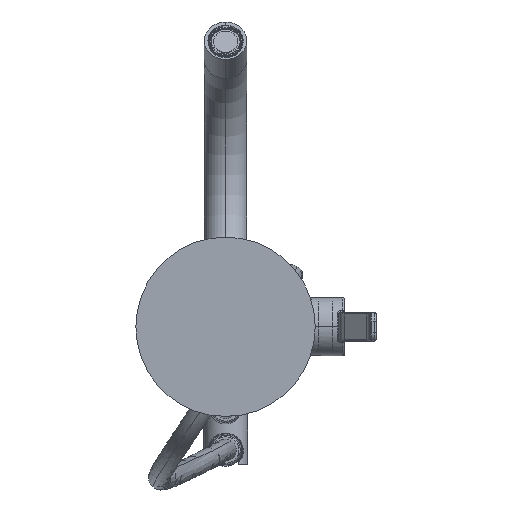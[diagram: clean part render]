
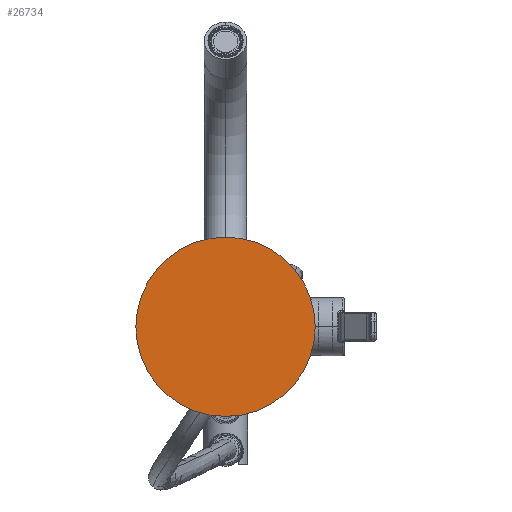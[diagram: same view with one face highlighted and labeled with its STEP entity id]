
A CAD part, front view. The second image highlights one B-rep face of the part: STEP entity #26734.
In plain terms, the highlighted planar face has unit normal (0, -1, 0).
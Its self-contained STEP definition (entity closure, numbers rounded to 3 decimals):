
#14343=CARTESIAN_POINT('',(0.,0.,0.));
#14344=DIRECTION('',(0.,-1.,0.));
#14345=DIRECTION('',(-1.,0.,0.));
#14346=AXIS2_PLACEMENT_3D('',#14343,#14344,#14345);
#14348=CARTESIAN_POINT('',(0.,0.,0.));
#14349=DIRECTION('',(0.,1.,0.));
#14350=DIRECTION('',(-1.,0.,0.));
#14351=AXIS2_PLACEMENT_3D('',#14348,#14349,#14350);
#20806=CARTESIAN_POINT('',(-63.,0.,0.));
#20807=CARTESIAN_POINT('',(63.,0.,0.));
#20808=VERTEX_POINT('',#20806);
#20809=VERTEX_POINT('',#20807);
#26725=CARTESIAN_POINT('',(0.,0.,0.));
#26726=DIRECTION('',(0.,1.,0.));
#26727=DIRECTION('',(1.,0.,0.));
#26728=AXIS2_PLACEMENT_3D('',#26725,#26726,#26727);
#26729=PLANE('',#26728);
#26730=ORIENTED_EDGE('',*,*,#26671,.F.);
#26731=ORIENTED_EDGE('',*,*,#26693,.T.);
#26732=EDGE_LOOP('',(#26730,#26731));
#26733=FACE_OUTER_BOUND('',#26732,.F.);
#14347=CIRCLE('',#14346,63.);
#14352=CIRCLE('',#14351,63.);
#26671=EDGE_CURVE('',#20808,#20809,#14347,.T.);
#26693=EDGE_CURVE('',#20808,#20809,#14352,.T.);
#26734=ADVANCED_FACE('',(#26733),#26729,.F.);
